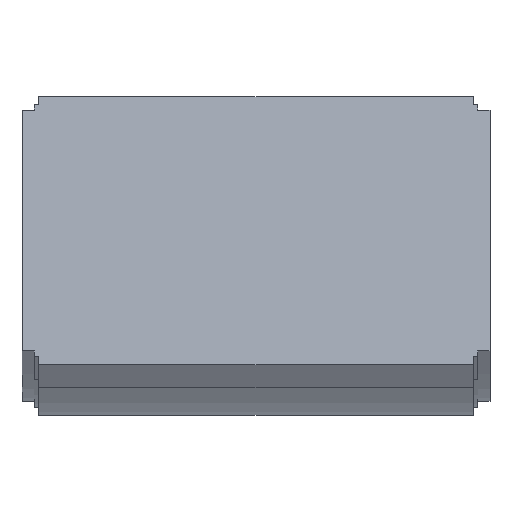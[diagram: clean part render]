
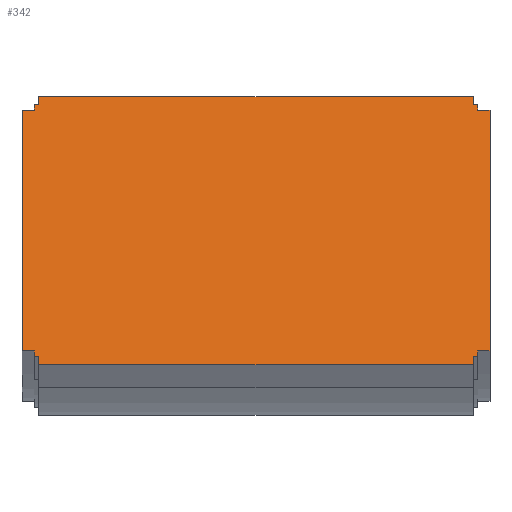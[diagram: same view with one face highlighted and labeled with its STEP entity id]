
A CAD part, top view. The second image highlights one B-rep face of the part: STEP entity #342.
In plain terms, the highlighted planar face has unit normal (0, 0.216, 0.976).
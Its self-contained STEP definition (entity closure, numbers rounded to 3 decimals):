
#17 = EDGE_CURVE ( 'NONE', #1401, #1265, #1228, .T. ) ;
#18 = CARTESIAN_POINT ( 'NONE',  ( -110.25, 85.942, 198.069 ) ) ;
#40 = VERTEX_POINT ( 'NONE', #1054 ) ;
#44 = ORIENTED_EDGE ( 'NONE', *, *, #99, .T. ) ;
#47 = LINE ( 'NONE', #732, #799 ) ;
#54 = PLANE ( 'NONE',  #419 ) ;
#55 = DIRECTION ( 'NONE',  ( 0., -0.976, 0.216 ) ) ;
#60 = DIRECTION ( 'NONE',  ( -1., 0., 0. ) ) ;
#74 = LINE ( 'NONE', #376, #1011 ) ;
#92 = CARTESIAN_POINT ( 'NONE',  ( 116.25, -36.583, 225.232 ) ) ;
#96 = DIRECTION ( 'NONE',  ( -1., 0., 0. ) ) ;
#98 = ORIENTED_EDGE ( 'NONE', *, *, #1187, .T. ) ;
#99 = EDGE_CURVE ( 'NONE', #1111, #872, #762, .T. ) ;
#100 = VECTOR ( 'NONE', #1144, 1000. ) ;
#101 = CARTESIAN_POINT ( 'NONE',  ( -116.25, 83.013, 198.718 ) ) ;
#150 = EDGE_CURVE ( 'NONE', #40, #555, #218, .T. ) ;
#165 = VERTEX_POINT ( 'NONE', #691 ) ;
#180 = CARTESIAN_POINT ( 'NONE',  ( -110.25, -39.512, 225.882 ) ) ;
#186 = ORIENTED_EDGE ( 'NONE', *, *, #1219, .T. ) ;
#189 = CARTESIAN_POINT ( 'NONE',  ( -110.25, -36.583, 225.232 ) ) ;
#198 = DIRECTION ( 'NONE',  ( 1., 0., 0. ) ) ;
#203 = ORIENTED_EDGE ( 'NONE', *, *, #150, .T. ) ;
#218 = LINE ( 'NONE', #248, #529 ) ;
#223 = ORIENTED_EDGE ( 'NONE', *, *, #548, .T. ) ;
#228 = LINE ( 'NONE', #986, #644 ) ;
#232 = CARTESIAN_POINT ( 'NONE',  ( 110.25, 85.942, 198.069 ) ) ;
#238 = LINE ( 'NONE', #601, #662 ) ;
#239 = LINE ( 'NONE', #894, #992 ) ;
#241 = EDGE_CURVE ( 'NONE', #1211, #165, #622, .T. ) ;
#247 = DIRECTION ( 'NONE',  ( 0., -0.976, 0.216 ) ) ;
#248 = CARTESIAN_POINT ( 'NONE',  ( 110.25, -39.512, 225.882 ) ) ;
#254 = LINE ( 'NONE', #711, #1164 ) ;
#257 = DIRECTION ( 'NONE',  ( 0., -0.976, 0.216 ) ) ;
#282 = EDGE_CURVE ( 'NONE', #584, #1401, #570, .T. ) ;
#297 = LINE ( 'NONE', #792, #410 ) ;
#304 = DIRECTION ( 'NONE',  ( 1., 0., 0. ) ) ;
#305 = VERTEX_POINT ( 'NONE', #1262 ) ;
#306 = EDGE_CURVE ( 'NONE', #555, #719, #402, .T. ) ;
#309 = VERTEX_POINT ( 'NONE', #189 ) ;
#314 = ORIENTED_EDGE ( 'NONE', *, *, #452, .T. ) ;
#317 = VECTOR ( 'NONE', #304, 1000. ) ;
#318 = CARTESIAN_POINT ( 'NONE',  ( 116.25, -36.583, 225.232 ) ) ;
#328 = VECTOR ( 'NONE', #60, 1000. ) ;
#342 = ADVANCED_FACE ( 'NONE', ( #868 ), #54, .T. ) ;
#353 = ORIENTED_EDGE ( 'NONE', *, *, #17, .T. ) ;
#371 = DIRECTION ( 'NONE',  ( -1., 0., 0. ) ) ;
#373 = DIRECTION ( 'NONE',  ( 1., 0., 0. ) ) ;
#376 = CARTESIAN_POINT ( 'NONE',  ( 110.25, 85.942, 198.069 ) ) ;
#378 = CARTESIAN_POINT ( 'NONE',  ( -107.95, 85.942, 198.069 ) ) ;
#379 = VERTEX_POINT ( 'NONE', #383 ) ;
#383 = CARTESIAN_POINT ( 'NONE',  ( 107.95, -43.417, 226.747 ) ) ;
#394 = VERTEX_POINT ( 'NONE', #1347 ) ;
#397 = EDGE_CURVE ( 'NONE', #165, #915, #646, .T. ) ;
#402 = LINE ( 'NONE', #620, #1052 ) ;
#410 = VECTOR ( 'NONE', #503, 1000. ) ;
#417 = EDGE_CURVE ( 'NONE', #915, #668, #1131, .T. ) ;
#419 = AXIS2_PLACEMENT_3D ( 'NONE', #378, #784, #373 ) ;
#443 = VECTOR ( 'NONE', #1258, 1000. ) ;
#452 = EDGE_CURVE ( 'NONE', #1265, #379, #821, .T. ) ;
#499 = VERTEX_POINT ( 'NONE', #232 ) ;
#503 = DIRECTION ( 'NONE',  ( 1., 0., 0. ) ) ;
#510 = CARTESIAN_POINT ( 'NONE',  ( -110.25, 85.942, 198.069 ) ) ;
#525 = VECTOR ( 'NONE', #247, 1000. ) ;
#529 = VECTOR ( 'NONE', #1119, 1000. ) ;
#531 = CARTESIAN_POINT ( 'NONE',  ( -110.25, 83.013, 198.718 ) ) ;
#548 = EDGE_CURVE ( 'NONE', #1055, #1111, #1068, .T. ) ;
#552 = ORIENTED_EDGE ( 'NONE', *, *, #282, .T. ) ;
#555 = VERTEX_POINT ( 'NONE', #1314 ) ;
#570 = LINE ( 'NONE', #180, #826 ) ;
#581 = ORIENTED_EDGE ( 'NONE', *, *, #729, .T. ) ;
#584 = VERTEX_POINT ( 'NONE', #1193 ) ;
#601 = CARTESIAN_POINT ( 'NONE',  ( 110.25, 83.013, 198.718 ) ) ;
#613 = CARTESIAN_POINT ( 'NONE',  ( -107.95, -43.417, 226.747 ) ) ;
#614 = EDGE_CURVE ( 'NONE', #668, #1055, #228, .T. ) ;
#620 = CARTESIAN_POINT ( 'NONE',  ( 110.25, -39.512, 225.882 ) ) ;
#622 = LINE ( 'NONE', #1266, #768 ) ;
#626 = DIRECTION ( 'NONE',  ( 0., 0.976, -0.216 ) ) ;
#644 = VECTOR ( 'NONE', #672, 1000. ) ;
#646 = LINE ( 'NONE', #790, #328 ) ;
#649 = EDGE_CURVE ( 'NONE', #309, #584, #738, .T. ) ;
#655 = VECTOR ( 'NONE', #96, 1000. ) ;
#662 = VECTOR ( 'NONE', #371, 1000. ) ;
#668 = VERTEX_POINT ( 'NONE', #1226 ) ;
#672 = DIRECTION ( 'NONE',  ( -1., 0., 0. ) ) ;
#677 = EDGE_CURVE ( 'NONE', #379, #40, #239, .T. ) ;
#684 = CARTESIAN_POINT ( 'NONE',  ( -110.25, -39.512, 225.882 ) ) ;
#687 = CARTESIAN_POINT ( 'NONE',  ( -107.95, 85.942, 198.069 ) ) ;
#691 = CARTESIAN_POINT ( 'NONE',  ( 107.95, 89.847, 197.203 ) ) ;
#711 = CARTESIAN_POINT ( 'NONE',  ( -116.25, -36.583, 225.232 ) ) ;
#719 = VERTEX_POINT ( 'NONE', #786 ) ;
#725 = DIRECTION ( 'NONE',  ( 0., 0.976, -0.216 ) ) ;
#729 = EDGE_CURVE ( 'NONE', #989, #499, #74, .T. ) ;
#732 = CARTESIAN_POINT ( 'NONE',  ( 110.25, 85.942, 198.069 ) ) ;
#738 = LINE ( 'NONE', #684, #1081 ) ;
#751 = ORIENTED_EDGE ( 'NONE', *, *, #677, .T. ) ;
#762 = LINE ( 'NONE', #950, #655 ) ;
#768 = VECTOR ( 'NONE', #1142, 1000. ) ;
#784 = DIRECTION ( 'NONE',  ( 0., 0.216, 0.976 ) ) ;
#786 = CARTESIAN_POINT ( 'NONE',  ( 110.25, -36.583, 225.232 ) ) ;
#790 = CARTESIAN_POINT ( 'NONE',  ( -107.95, 89.847, 197.203 ) ) ;
#792 = CARTESIAN_POINT ( 'NONE',  ( -110.25, -36.583, 225.232 ) ) ;
#799 = VECTOR ( 'NONE', #1249, 1000. ) ;
#802 = DIRECTION ( 'NONE',  ( 0., 0.976, -0.216 ) ) ;
#809 = EDGE_CURVE ( 'NONE', #863, #305, #1166, .T. ) ;
#812 = ORIENTED_EDGE ( 'NONE', *, *, #306, .T. ) ;
#821 = LINE ( 'NONE', #1023, #317 ) ;
#826 = VECTOR ( 'NONE', #198, 1000. ) ;
#863 = VERTEX_POINT ( 'NONE', #318 ) ;
#868 = FACE_OUTER_BOUND ( 'NONE', #1005, .T. ) ;
#869 = ORIENTED_EDGE ( 'NONE', *, *, #417, .T. ) ;
#872 = VERTEX_POINT ( 'NONE', #101 ) ;
#894 = CARTESIAN_POINT ( 'NONE',  ( 107.95, -39.512, 225.882 ) ) ;
#900 = CARTESIAN_POINT ( 'NONE',  ( 110.25, 83.013, 198.718 ) ) ;
#915 = VERTEX_POINT ( 'NONE', #1288 ) ;
#932 = VECTOR ( 'NONE', #626, 1000. ) ;
#937 = EDGE_CURVE ( 'NONE', #305, #989, #238, .T. ) ;
#950 = CARTESIAN_POINT ( 'NONE',  ( -110.25, 83.013, 198.718 ) ) ;
#962 = EDGE_CURVE ( 'NONE', #394, #309, #297, .T. ) ;
#972 = LINE ( 'NONE', #1117, #443 ) ;
#986 = CARTESIAN_POINT ( 'NONE',  ( -110.25, 85.942, 198.069 ) ) ;
#989 = VERTEX_POINT ( 'NONE', #900 ) ;
#992 = VECTOR ( 'NONE', #1330, 1000. ) ;
#1005 = EDGE_LOOP ( 'NONE', ( #1352, #223, #44, #186, #1160, #1305, #552, #353, #314, #751, #203, #812, #1151, #1277, #1074, #581, #98, #1317, #1224, #869 ) ) ;
#1011 = VECTOR ( 'NONE', #802, 1000. ) ;
#1022 = CARTESIAN_POINT ( 'NONE',  ( 107.95, 85.942, 198.069 ) ) ;
#1023 = CARTESIAN_POINT ( 'NONE',  ( -107.95, -43.417, 226.747 ) ) ;
#1047 = VECTOR ( 'NONE', #257, 1000. ) ;
#1049 = CARTESIAN_POINT ( 'NONE',  ( -107.95, -39.512, 225.882 ) ) ;
#1052 = VECTOR ( 'NONE', #725, 1000. ) ;
#1054 = CARTESIAN_POINT ( 'NONE',  ( 107.95, -39.512, 225.882 ) ) ;
#1055 = VERTEX_POINT ( 'NONE', #510 ) ;
#1068 = LINE ( 'NONE', #18, #525 ) ;
#1074 = ORIENTED_EDGE ( 'NONE', *, *, #937, .T. ) ;
#1081 = VECTOR ( 'NONE', #1102, 1000. ) ;
#1102 = DIRECTION ( 'NONE',  ( 0., -0.976, 0.216 ) ) ;
#1111 = VERTEX_POINT ( 'NONE', #531 ) ;
#1117 = CARTESIAN_POINT ( 'NONE',  ( 110.25, -36.583, 225.232 ) ) ;
#1119 = DIRECTION ( 'NONE',  ( 1., 0., 0. ) ) ;
#1131 = LINE ( 'NONE', #687, #1047 ) ;
#1142 = DIRECTION ( 'NONE',  ( 0., 0.976, -0.216 ) ) ;
#1144 = DIRECTION ( 'NONE',  ( 0., -0.976, 0.216 ) ) ;
#1151 = ORIENTED_EDGE ( 'NONE', *, *, #1286, .T. ) ;
#1160 = ORIENTED_EDGE ( 'NONE', *, *, #962, .T. ) ;
#1164 = VECTOR ( 'NONE', #55, 1000. ) ;
#1166 = LINE ( 'NONE', #92, #932 ) ;
#1187 = EDGE_CURVE ( 'NONE', #499, #1211, #47, .T. ) ;
#1193 = CARTESIAN_POINT ( 'NONE',  ( -110.25, -39.512, 225.882 ) ) ;
#1211 = VERTEX_POINT ( 'NONE', #1022 ) ;
#1217 = CARTESIAN_POINT ( 'NONE',  ( -107.95, -39.512, 225.882 ) ) ;
#1219 = EDGE_CURVE ( 'NONE', #872, #394, #254, .T. ) ;
#1224 = ORIENTED_EDGE ( 'NONE', *, *, #397, .T. ) ;
#1226 = CARTESIAN_POINT ( 'NONE',  ( -107.95, 85.942, 198.069 ) ) ;
#1228 = LINE ( 'NONE', #1049, #100 ) ;
#1249 = DIRECTION ( 'NONE',  ( -1., 0., 0. ) ) ;
#1258 = DIRECTION ( 'NONE',  ( 1., 0., 0. ) ) ;
#1262 = CARTESIAN_POINT ( 'NONE',  ( 116.25, 83.013, 198.718 ) ) ;
#1265 = VERTEX_POINT ( 'NONE', #613 ) ;
#1266 = CARTESIAN_POINT ( 'NONE',  ( 107.95, 85.942, 198.069 ) ) ;
#1277 = ORIENTED_EDGE ( 'NONE', *, *, #809, .T. ) ;
#1286 = EDGE_CURVE ( 'NONE', #719, #863, #972, .T. ) ;
#1288 = CARTESIAN_POINT ( 'NONE',  ( -107.95, 89.847, 197.203 ) ) ;
#1305 = ORIENTED_EDGE ( 'NONE', *, *, #649, .T. ) ;
#1314 = CARTESIAN_POINT ( 'NONE',  ( 110.25, -39.512, 225.882 ) ) ;
#1317 = ORIENTED_EDGE ( 'NONE', *, *, #241, .T. ) ;
#1330 = DIRECTION ( 'NONE',  ( 0., 0.976, -0.216 ) ) ;
#1347 = CARTESIAN_POINT ( 'NONE',  ( -116.25, -36.583, 225.232 ) ) ;
#1352 = ORIENTED_EDGE ( 'NONE', *, *, #614, .T. ) ;
#1401 = VERTEX_POINT ( 'NONE', #1217 ) ;
